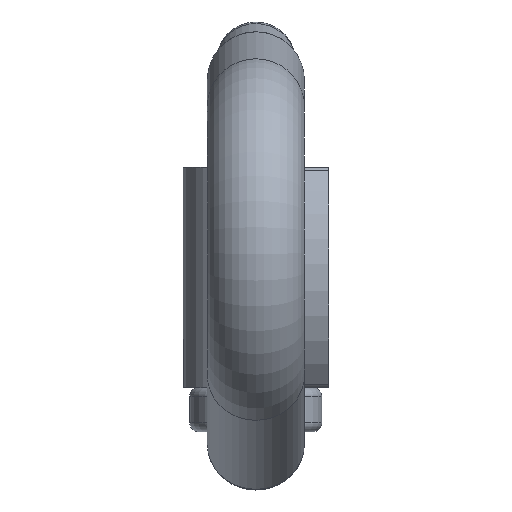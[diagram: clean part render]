
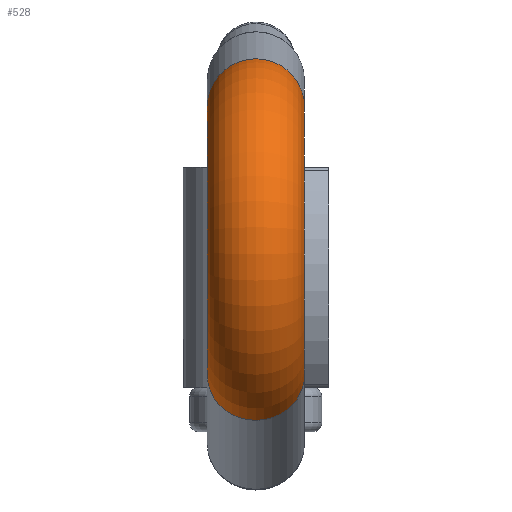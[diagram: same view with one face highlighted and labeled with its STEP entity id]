
A CAD part, left-side view. The second image highlights one B-rep face of the part: STEP entity #528.
In plain terms, the highlighted toroidal (fillet/blend) face has major radius 16 mm and minor radius 5.5 mm.
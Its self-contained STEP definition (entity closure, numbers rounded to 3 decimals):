
#23=TOROIDAL_SURFACE('',#605,16.,5.5);
#104=FACE_BOUND('',#187,.T.);
#138=FACE_OUTER_BOUND('',#186,.T.);
#186=EDGE_LOOP('',(#471));
#187=EDGE_LOOP('',(#472));
#224=CIRCLE('',#588,5.5);
#227=CIRCLE('',#593,5.5);
#273=VERTEX_POINT('',#914);
#276=VERTEX_POINT('',#922);
#338=EDGE_CURVE('',#273,#273,#224,.T.);
#341=EDGE_CURVE('',#276,#276,#227,.T.);
#471=ORIENTED_EDGE('',*,*,#338,.F.);
#472=ORIENTED_EDGE('',*,*,#341,.T.);
#528=ADVANCED_FACE('',(#138,#104),#23,.T.);
#588=AXIS2_PLACEMENT_3D('',#915,#746,#747);
#593=AXIS2_PLACEMENT_3D('',#923,#756,#757);
#605=AXIS2_PLACEMENT_3D('',#940,#780,#781);
#746=DIRECTION('center_axis',(-0.161,-0.987,0.));
#747=DIRECTION('ref_axis',(0.987,-0.161,0.));
#756=DIRECTION('center_axis',(-0.389,0.921,0.));
#757=DIRECTION('ref_axis',(-0.921,-0.389,0.));
#780=DIRECTION('center_axis',(0.,0.,1.));
#781=DIRECTION('ref_axis',(1.,0.,0.));
#914=CARTESIAN_POINT('',(-37.329,41.953,0.));
#915=CARTESIAN_POINT('Origin',(-31.901,41.069,0.));
#922=CARTESIAN_POINT('',(3.698,46.864,0.));
#923=CARTESIAN_POINT('Origin',(-1.369,44.724,0.));
#940=CARTESIAN_POINT('Origin',(-16.108,38.5,0.));
